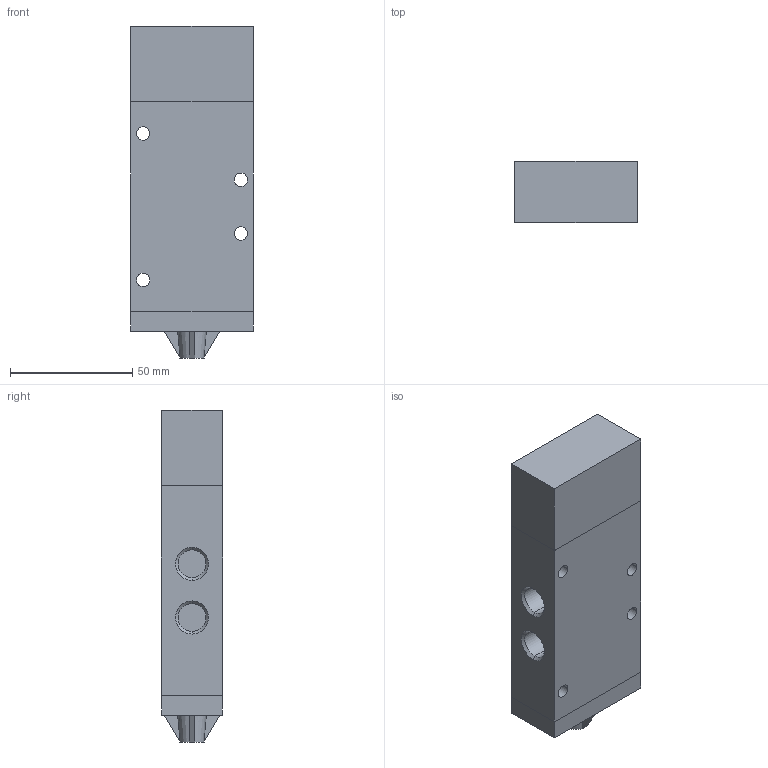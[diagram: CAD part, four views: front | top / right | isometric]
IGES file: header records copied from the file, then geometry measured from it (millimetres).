
Global section: file name: No Iges File Name specified; native system: AutoDesk Inventor R11.0; preprocessor: AutoDesk Inventor Iges Exporter R11.0; author: No Author specified; organization: No Organization specified; date: 20061219.092216; units: millimetre
Bounding box: 50 x 25 x 136 mm (x, y, z)
Volume: 148694.8 mm3; surface area: 25488.3 mm2
Topology: 1 solids, 1 shells, 71 faces, 168 edges, 108 vertices
Faces by surface type: bspline 30, plane 29, revolution 8, cone 4
